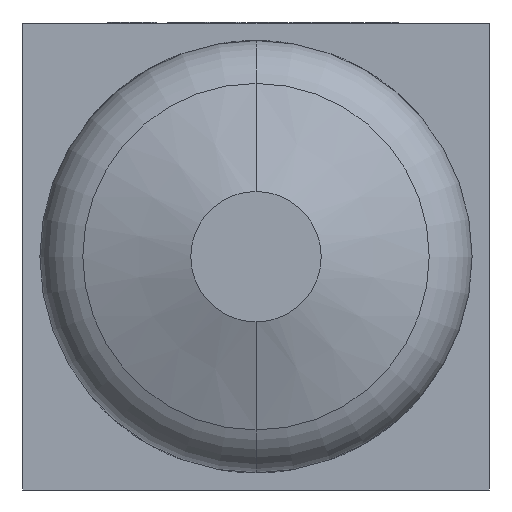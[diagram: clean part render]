
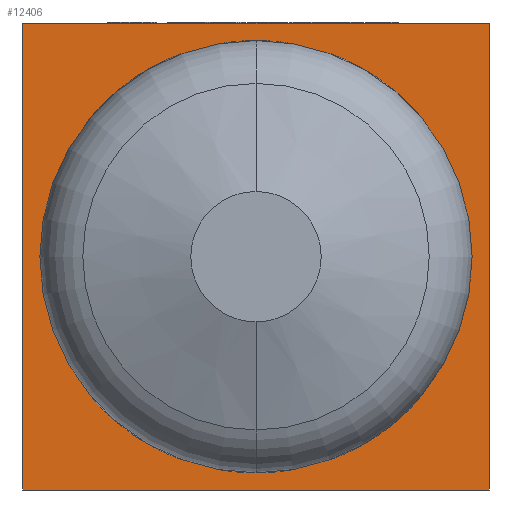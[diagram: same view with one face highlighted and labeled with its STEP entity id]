
A CAD part, front view. The second image highlights one B-rep face of the part: STEP entity #12406.
In plain terms, the highlighted planar face has unit normal (0, -1, 0).
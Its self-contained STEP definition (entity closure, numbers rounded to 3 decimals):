
#927 = LINE ( 'NONE', #10913, #7886 ) ;
#1300 = CARTESIAN_POINT ( 'NONE',  ( -34., -34., 34. ) ) ;
#2011 = VERTEX_POINT ( 'NONE', #5174 ) ;
#2131 = FACE_OUTER_BOUND ( 'NONE', #11367, .T. ) ;
#2439 = ORIENTED_EDGE ( 'NONE', *, *, #4315, .T. ) ;
#3739 = ORIENTED_EDGE ( 'NONE', *, *, #11880, .F. ) ;
#4090 = VECTOR ( 'NONE', #7343, 1000. ) ;
#4315 = EDGE_CURVE ( 'NONE', #7078, #12002, #11762, .T. ) ;
#5102 = EDGE_CURVE ( 'NONE', #2011, #12095, #12974, .T. ) ;
#5174 = CARTESIAN_POINT ( 'NONE',  ( 34., -34., 34. ) ) ;
#6008 = CARTESIAN_POINT ( 'NONE',  ( 34., -34., -34. ) ) ;
#6096 = CARTESIAN_POINT ( 'NONE',  ( -34., -34., 34. ) ) ;
#7078 = VERTEX_POINT ( 'NONE', #1300 ) ;
#7343 = DIRECTION ( 'NONE',  ( 0., 0., -1. ) ) ;
#7561 = ORIENTED_EDGE ( 'NONE', *, *, #5102, .F. ) ;
#7886 = VECTOR ( 'NONE', #8396, 1000. ) ;
#8032 = ORIENTED_EDGE ( 'NONE', *, *, #9924, .T. ) ;
#8127 = CARTESIAN_POINT ( 'NONE',  ( 34., -34., 34. ) ) ;
#8396 = DIRECTION ( 'NONE',  ( 1., 0., 0. ) ) ;
#9742 = CARTESIAN_POINT ( 'NONE',  ( -34., -34., 34. ) ) ;
#9828 = DIRECTION ( 'NONE',  ( 0., 0., 1. ) ) ;
#9924 = EDGE_CURVE ( 'NONE', #12002, #12095, #927, .T. ) ;
#10913 = CARTESIAN_POINT ( 'NONE',  ( -34., -34., -34. ) ) ;
#10975 = DIRECTION ( 'NONE',  ( 0., 1., 0. ) ) ;
#11112 = DIRECTION ( 'NONE',  ( 1., 0., 0. ) ) ;
#11367 = EDGE_LOOP ( 'NONE', ( #8032, #7561, #3739, #2439 ) ) ;
#11694 = PLANE ( 'NONE',  #13209 ) ;
#11762 = LINE ( 'NONE', #13612, #4090 ) ;
#11880 = EDGE_CURVE ( 'NONE', #7078, #2011, #13449, .T. ) ;
#12002 = VERTEX_POINT ( 'NONE', #12535 ) ;
#12095 = VERTEX_POINT ( 'NONE', #6008 ) ;
#12171 = VECTOR ( 'NONE', #11112, 1000. ) ;
#12406 = ADVANCED_FACE ( 'NONE', ( #2131 ), #11694, .F. ) ;
#12535 = CARTESIAN_POINT ( 'NONE',  ( -34., -34., -34. ) ) ;
#12537 = VECTOR ( 'NONE', #13915, 1000. ) ;
#12974 = LINE ( 'NONE', #8127, #12537 ) ;
#13209 = AXIS2_PLACEMENT_3D ( 'NONE', #6096, #10975, #9828 ) ;
#13449 = LINE ( 'NONE', #9742, #12171 ) ;
#13612 = CARTESIAN_POINT ( 'NONE',  ( -34., -34., 34. ) ) ;
#13915 = DIRECTION ( 'NONE',  ( 0., 0., -1. ) ) ;
